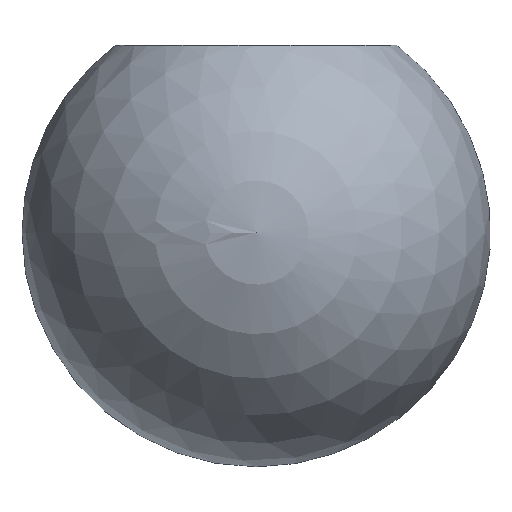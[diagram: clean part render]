
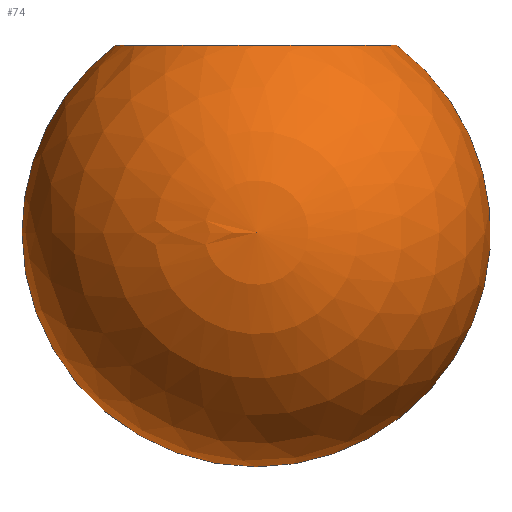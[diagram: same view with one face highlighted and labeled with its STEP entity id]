
A CAD part, left-side view. The second image highlights one B-rep face of the part: STEP entity #74.
In plain terms, the highlighted spherical face has radius 10 mm.
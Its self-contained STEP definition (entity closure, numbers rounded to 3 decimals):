
#4 = DIRECTION ( 'NONE',  ( 0., 0., -1. ) ) ;
#32 = DIRECTION ( 'NONE',  ( 0., 0., 1. ) ) ;
#39 = SPHERICAL_SURFACE ( 'NONE', #276, 10. ) ;
#47 = CARTESIAN_POINT ( 'NONE',  ( 0., 0., -8. ) ) ;
#74 = ADVANCED_FACE ( 'NONE', ( #297 ), #39, .T. ) ;
#78 = ORIENTED_EDGE ( 'NONE', *, *, #320, .F. ) ;
#89 = CARTESIAN_POINT ( 'NONE',  ( 0., -6., 0. ) ) ;
#102 = AXIS2_PLACEMENT_3D ( 'NONE', #439, #110, #273 ) ;
#110 = DIRECTION ( 'NONE',  ( -1., 0., 0. ) ) ;
#125 = DIRECTION ( 'NONE',  ( 0., 1., 0. ) ) ;
#152 = CIRCLE ( 'NONE', #524, 10. ) ;
#186 = ORIENTED_EDGE ( 'NONE', *, *, #512, .F. ) ;
#192 = CARTESIAN_POINT ( 'NONE',  ( 0., 6., 0. ) ) ;
#215 = DIRECTION ( 'NONE',  ( 1., 0., 0. ) ) ;
#226 = CARTESIAN_POINT ( 'NONE',  ( 0., 0., -18. ) ) ;
#227 = CARTESIAN_POINT ( 'NONE',  ( 0., 0., 0. ) ) ;
#229 = ORIENTED_EDGE ( 'NONE', *, *, #370, .T. ) ;
#259 = CIRCLE ( 'NONE', #441, 6. ) ;
#273 = DIRECTION ( 'NONE',  ( 0., -1., 0. ) ) ;
#276 = AXIS2_PLACEMENT_3D ( 'NONE', #456, #335, #125 ) ;
#297 = FACE_OUTER_BOUND ( 'NONE', #434, .T. ) ;
#320 = EDGE_CURVE ( 'NONE', #431, #526, #259, .T. ) ;
#335 = DIRECTION ( 'NONE',  ( -1., 0., 0. ) ) ;
#340 = CIRCLE ( 'NONE', #102, 10. ) ;
#356 = DIRECTION ( 'NONE',  ( 1., 0., 0. ) ) ;
#370 = EDGE_CURVE ( 'NONE', #472, #526, #340, .T. ) ;
#431 = VERTEX_POINT ( 'NONE', #192 ) ;
#434 = EDGE_LOOP ( 'NONE', ( #186, #229, #78 ) ) ;
#439 = CARTESIAN_POINT ( 'NONE',  ( 0., 0., -8. ) ) ;
#441 = AXIS2_PLACEMENT_3D ( 'NONE', #227, #32, #356 ) ;
#456 = CARTESIAN_POINT ( 'NONE',  ( 0., 0., -8. ) ) ;
#472 = VERTEX_POINT ( 'NONE', #226 ) ;
#512 = EDGE_CURVE ( 'NONE', #472, #431, #152, .T. ) ;
#524 = AXIS2_PLACEMENT_3D ( 'NONE', #47, #215, #4 ) ;
#526 = VERTEX_POINT ( 'NONE', #89 ) ;
